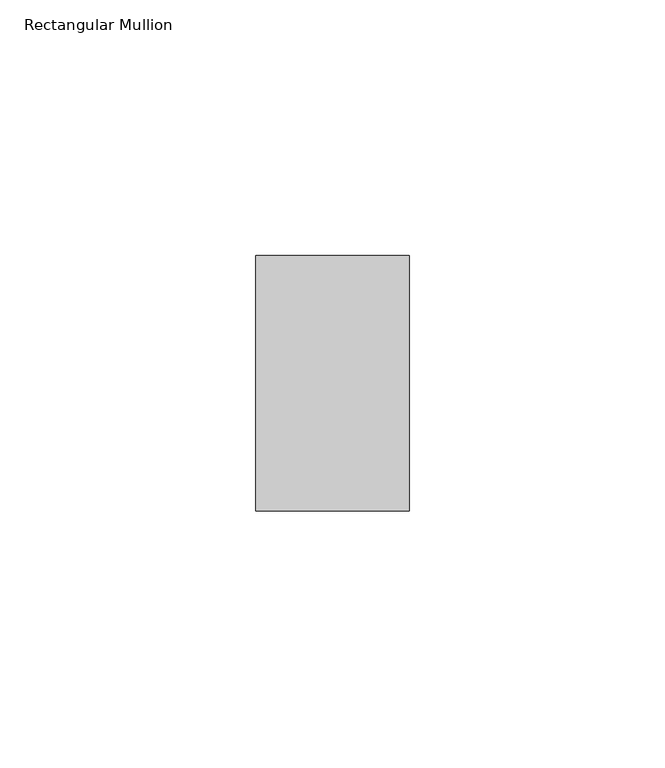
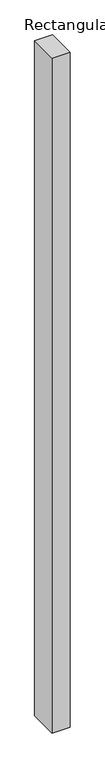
"""IFC4 building model written with IfcOpenShell, lengths in millimetres: member geometry, Rectangular Mullion : ARQ_TV_MULL_50x30mm."""

import ifcopenshell
import ifcopenshell.guid

model = None  # the IFC model being written
_history = None  # IfcOwnerHistory: only IFC2X3 demands one
_inside = {}  # id of a spatial element -> (the spatial element, [elements in it])
_under = {}  # id of a project, library or spatial element -> (it, [spatial elements below it])
_declared = {}  # id of a project -> (the project, [libraries it declares])
_typed = {}  # id of a type object -> (the type object, [elements of that type])
_made_of = {}  # id of a material, layer set ... -> (it, [elements and type objects made of it])


def new_model(schema):
    """Start an empty IFC model of exactly this schema.

    Asked for "IFC4X3", IfcOpenShell would pick the latest addendum, in which some entities
    have other attributes; the version numbers below select the first issue.
    IFC2X3 requires an IfcOwnerHistory on every rooted entity: one is made here for all.
    """
    global model, _history
    if schema == "IFC4X3":
        model = ifcopenshell.file(schema_version=(4, 3, 0, 0))
    else:
        model = ifcopenshell.file(schema=schema)
    _inside.clear()
    _under.clear()
    _declared.clear()
    _typed.clear()
    _made_of.clear()
    _history = None
    if model.schema == "IFC2X3":
        org = make("IfcOrganization", Name="unknown")
        user = make(
            "IfcPersonAndOrganization",
            ThePerson=make("IfcPerson", FamilyName="unknown"),
            TheOrganization=org,
        )
        app = make(
            "IfcApplication",
            ApplicationDeveloper=org,
            Version="unknown",
            ApplicationFullName="unknown",
            ApplicationIdentifier="unknown",
        )
        _history = make(
            "IfcOwnerHistory",
            OwningUser=user,
            OwningApplication=app,
            ChangeAction="ADDED",
            CreationDate=0,
        )
    return model


def make(cls, **values):
    """One entity of the class cls with the attributes given. An attribute that is None is left unset."""
    return model.create_entity(
        cls, **{name: value for name, value in values.items() if value is not None}
    )


def rooted(cls, **values):
    """An entity with a GlobalId (a new one), such as an element, a storey or a relation."""
    return make(cls, GlobalId=ifcopenshell.guid.new(), OwnerHistory=_history, **values)


def si_unit(unit_type, name, prefix=None):
    """IfcSIUnit, for example si_unit("LENGTHUNIT", "METRE", prefix="MILLI")."""
    return make("IfcSIUnit", UnitType=unit_type, Prefix=prefix, Name=name)


def assignment(units):
    """IfcUnitAssignment: the units of a project."""
    return None if units is None else make("IfcUnitAssignment", Units=units)


def point(xyz):
    """IfcCartesianPoint."""
    return None if xyz is None else make("IfcCartesianPoint", Coordinates=xyz)


def direction(xyz):
    """IfcDirection."""
    return None if xyz is None else make("IfcDirection", DirectionRatios=xyz)


def frame(location, z_axis=None, x_axis=None):
    """IfcAxis2Placement3D, a coordinate frame: its origin and axes. An axis left out is left unset."""
    return make(
        "IfcAxis2Placement3D",
        Location=point(location),
        Axis=direction(z_axis),
        RefDirection=direction(x_axis),
    )


def origin():
    """The frame at (0, 0, 0) with its axes left unset."""
    return frame((0.0, 0.0, 0.0))


def place(relative_to, where):
    """IfcLocalPlacement: puts the frame where relative to a parent placement (None: the world)."""
    return make(
        "IfcLocalPlacement", PlacementRelTo=relative_to, RelativePlacement=where
    )


def context(
    kind, dimensions, precision=None, world=None, true_north=None, identifier=None
):
    """IfcGeometricRepresentationContext, for example the 3D "Model" context."""
    return make(
        "IfcGeometricRepresentationContext",
        ContextIdentifier=identifier,
        ContextType=kind,
        CoordinateSpaceDimension=dimensions,
        Precision=precision,
        WorldCoordinateSystem=world,
        TrueNorth=true_north,
    )


def project(units=None, contexts=None):
    """IfcProject with its units and contexts."""
    return rooted(
        "IfcProject",
        Name="project",
        RepresentationContexts=contexts,
        UnitsInContext=assignment(units),
    )


def spatial(cls, under=None, at=None, **own):
    """A site, building, storey or space (cls), placed at a placement, below another one or the project."""
    s = rooted(cls, ObjectPlacement=at, **own)
    if under is not None:
        _under.setdefault(under.id(), (under, []))[1].append(s)
    return s


def polyline(points):
    """IfcPolyline through the points."""
    return make("IfcPolyline", Points=[point(p) for p in points])


def outline(outer, holes=None, kind="AREA"):
    """IfcArbitraryClosedProfileDef: a profile drawn as a closed curve; with holes, ...WithVoids."""
    if holes is None:
        return make("IfcArbitraryClosedProfileDef", ProfileType=kind, OuterCurve=outer)
    return make(
        "IfcArbitraryProfileDefWithVoids",
        ProfileType=kind,
        OuterCurve=outer,
        InnerCurves=holes,
    )


def extrude(swept, where, along, depth):
    """IfcExtrudedAreaSolid: the profile swept, set in the frame where, extruded along a direction by depth."""
    return make(
        "IfcExtrudedAreaSolid",
        SweptArea=swept,
        Position=where,
        ExtrudedDirection=direction(along),
        Depth=depth,
    )


def shape(context_of_items, identifier, shape_type, items):
    """IfcShapeRepresentation: the items that make up one representation, for example the "Body"."""
    return make(
        "IfcShapeRepresentation",
        ContextOfItems=context_of_items,
        RepresentationIdentifier=identifier,
        RepresentationType=shape_type,
        Items=items,
    )


def source(mapping_origin, context_of_items, identifier, shape_type, items):
    """IfcRepresentationMap: a shape defined once, which mapped items show again and again."""
    return make(
        "IfcRepresentationMap",
        MappingOrigin=mapping_origin,
        MappedRepresentation=shape(context_of_items, identifier, shape_type, items),
    )


def transform(
    local_origin,
    x_axis=None,
    y_axis=None,
    z_axis=None,
    scale=None,
    scale2=None,
    scale3=None,
    uniform=True,
):
    """IfcCartesianTransformationOperator3D, or its non-uniform kind. x_axis, y_axis, z_axis: its Axis1, 2, 3."""
    if uniform:
        return make(
            "IfcCartesianTransformationOperator3D",
            Axis1=direction(x_axis),
            Axis2=direction(y_axis),
            LocalOrigin=point(local_origin),
            Scale=scale,
            Axis3=direction(z_axis),
        )
    return make(
        "IfcCartesianTransformationOperator3DnonUniform",
        Axis1=direction(x_axis),
        Axis2=direction(y_axis),
        LocalOrigin=point(local_origin),
        Scale=scale,
        Axis3=direction(z_axis),
        Scale2=scale2,
        Scale3=scale3,
    )


def mapped(mapping_source, mapping_target):
    """IfcMappedItem: shows the shape of a source again, moved by a transform."""
    return make(
        "IfcMappedItem", MappingSource=mapping_source, MappingTarget=mapping_target
    )


def made_of(thing, what):
    """Note that an element or type object is made of a material, layer set ...; save() writes the relation."""
    if what is not None:
        _made_of.setdefault(what.id(), (what, []))[1].append(thing)
    return thing


def element(
    cls,
    number,
    at=None,
    inside=None,
    cuts=None,
    type_object=None,
    material=None,
    context=None,
    identifier="Body",
    shape_type=None,
    held_by="IfcProductDefinitionShape",
    body=None,
    shapes=None,
    **own,
):
    """One element of the class cls, such as IfcWall. Its Tag is "e" and its number.

    at: its placement. inside: the storey or other place that contains it. cuts: it is an
    opening in that element (IfcRelVoidsElement). A single representation is given by context,
    identifier, shape_type and body (its items); several are given by shapes. held_by: the class
    of the entity that holds the representations. save() writes the other relations.
    """
    e = rooted(cls, Tag="e%d" % number, ObjectPlacement=at, **own)
    if body is not None:
        shapes = [shape(context, identifier, shape_type, body)]
    if shapes is not None:
        e.Representation = make(held_by, Representations=shapes)
    if inside is not None:
        _inside.setdefault(inside.id(), (inside, []))[1].append(e)
    if cuts is not None:
        rooted(
            "IfcRelVoidsElement", RelatingBuildingElement=cuts, RelatedOpeningElement=e
        )
    if type_object is not None:
        _typed.setdefault(type_object.id(), (type_object, []))[1].append(e)
    return made_of(e, material)


def aggregate(whole, parts):
    """IfcRelAggregates: a whole, such as a stair, and the parts it consists of."""
    return rooted("IfcRelAggregates", RelatingObject=whole, RelatedObjects=parts)


def save(model, path):
    """Write the relations noted so far, then the file.

    IfcRelAggregates (storeys below a building ...), IfcRelContainedInSpatialStructure (elements
    in a storey), IfcRelDefinesByType, IfcRelAssociatesMaterial and IfcRelDeclares: one each for
    every whole, place, type object, material and project.
    """
    for whole, parts in _under.values():
        aggregate(whole, parts)
    for where, things in _inside.values():
        rooted(
            "IfcRelContainedInSpatialStructure",
            RelatedElements=things,
            RelatingStructure=where,
        )
    for kind, things in _typed.values():
        rooted("IfcRelDefinesByType", RelatedObjects=things, RelatingType=kind)
    for what, things in _made_of.values():
        rooted("IfcRelAssociatesMaterial", RelatedObjects=things, RelatingMaterial=what)
    for by, libraries in _declared.values():
        rooted("IfcRelDeclares", RelatingContext=by, RelatedDefinitions=libraries)
    model.write(path)


def rectangular_mullion_01e7d57b(model_context):
    return source(origin(), model_context, "Body", "SweptSolid", [
        extrude(outline(polyline([(0.0, 25.0), (0.0, -25.0), (-30.0, -25.0), (-30.0, 25.0), (0.0, 25.0)])), frame((0.0, 0.0, -1191.4200351), z_axis=(0.0, 0.0, 1.0), x_axis=(1.0, 0.0, 0.0)), (0.0, 0.0, 1.0), 1191.4200351),
    ])


if __name__ == "__main__":
    model = new_model("IFC4")
    model_context = context("Model", 3, world=origin())
    ifc_project = project(units=[si_unit("LENGTHUNIT", "METRE", prefix="MILLI")], contexts=[model_context])
    site = spatial("IfcSite", under=ifc_project)
    building = spatial("IfcBuilding", under=site)
    placement = place(None, origin())
    rectangular_mullion_shape = rectangular_mullion_01e7d57b(model_context)
    element("IfcMember", 1, ObjectType="Rectangular Mullion : ARQ_TV_MULL_50x30mm", at=placement, inside=building, context=model_context, shape_type="MappedRepresentation", body=[
        mapped(rectangular_mullion_shape, transform((0.0, 0.0, 0.0), x_axis=(1.0, 0.0, 0.0), y_axis=(0.0, 1.0, 0.0), z_axis=(0.0, 0.0, 1.0))),
    ])
    save(model, "model.ifc")
